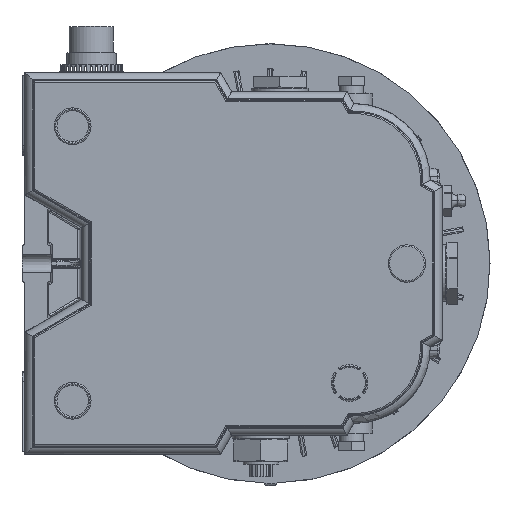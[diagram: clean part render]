
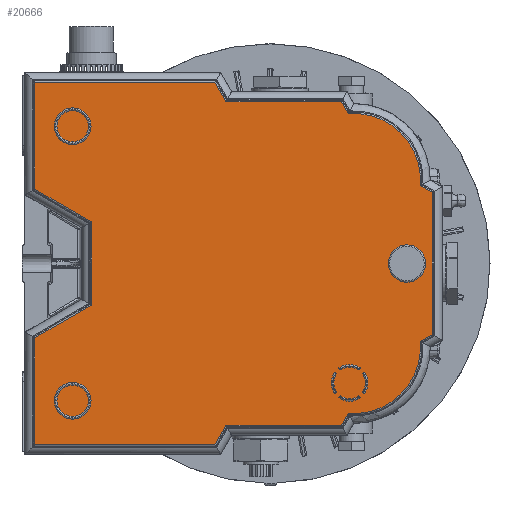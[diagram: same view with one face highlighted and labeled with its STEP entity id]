
A CAD part, front view. The second image highlights one B-rep face of the part: STEP entity #20666.
In plain terms, the highlighted planar face has unit normal (0, -1, 0).
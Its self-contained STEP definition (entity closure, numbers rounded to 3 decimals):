
#18843=DIRECTION('',(-0.5,0.,0.866));
#18844=VECTOR('',#18843,0.462);
#18845=CARTESIAN_POINT('',(-12.22,-5.6,3.392));
#18846=LINE('',#18845,#18844);
#18847=DIRECTION('',(-1.,0.,0.));
#18848=VECTOR('',#18847,2.415);
#18849=CARTESIAN_POINT('',(-9.805,-5.6,3.392));
#18850=LINE('',#18849,#18848);
#18851=DIRECTION('',(-0.5,0.,0.866));
#18852=VECTOR('',#18851,0.294);
#18853=CARTESIAN_POINT('',(-9.658,-5.6,3.137));
#18854=LINE('',#18853,#18852);
#18855=CARTESIAN_POINT('',(-9.541,-5.6,1.75));
#18856=DIRECTION('',(0.,-1.,0.));
#18857=DIRECTION('',(0.996,0.,-0.084));
#18858=AXIS2_PLACEMENT_3D('',#18855,#18856,#18857);
#18860=DIRECTION('',(-0.866,0.,0.5));
#18861=VECTOR('',#18860,0.294);
#18862=CARTESIAN_POINT('',(-7.899,-5.6,1.486));
#18863=LINE('',#18862,#18861);
#18864=DIRECTION('',(0.,0.,1.));
#18865=VECTOR('',#18864,2.971);
#18866=CARTESIAN_POINT('',(-7.899,-5.6,-1.486));
#18867=LINE('',#18866,#18865);
#18868=DIRECTION('',(0.866,0.,0.5));
#18869=VECTOR('',#18868,0.294);
#18870=CARTESIAN_POINT('',(-8.154,-5.6,-1.633));
#18871=LINE('',#18870,#18869);
#18872=CARTESIAN_POINT('',(-9.541,-5.6,-1.75));
#18873=DIRECTION('',(0.,-1.,0.));
#18874=DIRECTION('',(-0.084,0.,-0.996));
#18875=AXIS2_PLACEMENT_3D('',#18872,#18873,#18874);
#18877=DIRECTION('',(0.5,0.,0.866));
#18878=VECTOR('',#18877,0.294);
#18879=CARTESIAN_POINT('',(-9.805,-5.6,-3.392));
#18880=LINE('',#18879,#18878);
#18881=DIRECTION('',(1.,0.,0.));
#18882=VECTOR('',#18881,2.415);
#18883=CARTESIAN_POINT('',(-12.22,-5.6,-3.392));
#18884=LINE('',#18883,#18882);
#18885=DIRECTION('',(0.5,0.,0.866));
#18886=VECTOR('',#18885,0.462);
#18887=CARTESIAN_POINT('',(-12.451,-5.6,-3.792));
#18888=LINE('',#18887,#18886);
#18889=DIRECTION('',(1.,0.,0.));
#18890=VECTOR('',#18889,3.772);
#18891=CARTESIAN_POINT('',(-16.223,-5.6,-3.792));
#18892=LINE('',#18891,#18890);
#18893=DIRECTION('',(0.,0.,-1.));
#18894=VECTOR('',#18893,2.235);
#18895=CARTESIAN_POINT('',(-16.223,-5.6,-1.557));
#18896=LINE('',#18895,#18894);
#18897=DIRECTION('',(-0.866,0.,-0.5));
#18898=VECTOR('',#18897,1.374);
#18899=CARTESIAN_POINT('',(-15.033,-5.6,-0.87));
#18900=LINE('',#18899,#18898);
#18901=DIRECTION('',(0.,0.,-1.));
#18902=VECTOR('',#18901,1.74);
#18903=CARTESIAN_POINT('',(-15.033,-5.6,0.87));
#18904=LINE('',#18903,#18902);
#18905=DIRECTION('',(0.866,0.,-0.5));
#18906=VECTOR('',#18905,1.374);
#18907=CARTESIAN_POINT('',(-16.223,-5.6,1.557));
#18908=LINE('',#18907,#18906);
#18909=DIRECTION('',(0.,0.,-1.));
#18910=VECTOR('',#18909,2.235);
#18911=CARTESIAN_POINT('',(-16.223,-5.6,3.792));
#18912=LINE('',#18911,#18910);
#18913=DIRECTION('',(-1.,0.,0.));
#18914=VECTOR('',#18913,3.772);
#18915=CARTESIAN_POINT('',(-12.451,-5.6,3.792));
#18916=LINE('',#18915,#18914);
#19921=CARTESIAN_POINT('',(-12.22,-5.6,3.392));
#19922=CARTESIAN_POINT('',(-12.451,-5.6,3.792));
#19923=VERTEX_POINT('',#19921);
#19924=VERTEX_POINT('',#19922);
#19927=CARTESIAN_POINT('',(-16.223,-5.6,3.792));
#19928=VERTEX_POINT('',#19927);
#19931=CARTESIAN_POINT('',(-16.223,-5.6,1.557));
#19932=VERTEX_POINT('',#19931);
#19935=CARTESIAN_POINT('',(-15.033,-5.6,0.87));
#19936=VERTEX_POINT('',#19935);
#19939=CARTESIAN_POINT('',(-15.033,-5.6,-0.87));
#19940=VERTEX_POINT('',#19939);
#19943=CARTESIAN_POINT('',(-16.223,-5.6,-1.557));
#19944=VERTEX_POINT('',#19943);
#19947=CARTESIAN_POINT('',(-16.223,-5.6,-3.792));
#19948=VERTEX_POINT('',#19947);
#19951=CARTESIAN_POINT('',(-12.451,-5.6,-3.792));
#19952=VERTEX_POINT('',#19951);
#19955=CARTESIAN_POINT('',(-12.22,-5.6,-3.392));
#19956=VERTEX_POINT('',#19955);
#19959=CARTESIAN_POINT('',(-9.805,-5.6,-3.392));
#19960=VERTEX_POINT('',#19959);
#19963=CARTESIAN_POINT('',(-9.658,-5.6,-3.137));
#19964=VERTEX_POINT('',#19963);
#19967=CARTESIAN_POINT('',(-8.154,-5.6,-1.633));
#19968=VERTEX_POINT('',#19967);
#19971=CARTESIAN_POINT('',(-7.899,-5.6,-1.486));
#19972=VERTEX_POINT('',#19971);
#19975=CARTESIAN_POINT('',(-7.899,-5.6,1.486));
#19976=VERTEX_POINT('',#19975);
#19979=CARTESIAN_POINT('',(-8.154,-5.6,1.633));
#19980=VERTEX_POINT('',#19979);
#19983=CARTESIAN_POINT('',(-9.658,-5.6,3.137));
#19984=VERTEX_POINT('',#19983);
#19985=CARTESIAN_POINT('',(-9.805,-5.6,3.392));
#19986=VERTEX_POINT('',#19985);
#20623=CARTESIAN_POINT('',(-16.431,-5.6,0.));
#20624=DIRECTION('',(0.,-1.,0.));
#20625=DIRECTION('',(1.,0.,0.));
#20626=AXIS2_PLACEMENT_3D('',#20623,#20624,#20625);
#20627=PLANE('',#20626);
#20629=ORIENTED_EDGE('',*,*,#20628,.F.);
#20631=ORIENTED_EDGE('',*,*,#20630,.F.);
#20633=ORIENTED_EDGE('',*,*,#20632,.F.);
#20635=ORIENTED_EDGE('',*,*,#20634,.F.);
#20637=ORIENTED_EDGE('',*,*,#20636,.F.);
#20639=ORIENTED_EDGE('',*,*,#20638,.F.);
#20641=ORIENTED_EDGE('',*,*,#20640,.F.);
#20643=ORIENTED_EDGE('',*,*,#20642,.F.);
#20645=ORIENTED_EDGE('',*,*,#20644,.F.);
#20647=ORIENTED_EDGE('',*,*,#20646,.F.);
#20649=ORIENTED_EDGE('',*,*,#20648,.F.);
#20651=ORIENTED_EDGE('',*,*,#20650,.F.);
#20653=ORIENTED_EDGE('',*,*,#20652,.F.);
#20655=ORIENTED_EDGE('',*,*,#20654,.F.);
#20657=ORIENTED_EDGE('',*,*,#20656,.F.);
#20659=ORIENTED_EDGE('',*,*,#20658,.F.);
#20661=ORIENTED_EDGE('',*,*,#20660,.F.);
#20663=ORIENTED_EDGE('',*,*,#20662,.F.);
#20664=EDGE_LOOP('',(#20629,#20631,#20633,#20635,#20637,#20639,#20641,#20643,
#20645,#20647,#20649,#20651,#20653,#20655,#20657,#20659,#20661,#20663));
#20665=FACE_OUTER_BOUND('',#20664,.F.);
#20666=ADVANCED_FACE('',(#20665),#20627,.T.);
#18859=CIRCLE('',#18858,1.392);
#18876=CIRCLE('',#18875,1.392);
#20628=EDGE_CURVE('',#19923,#19924,#18846,.T.);
#20630=EDGE_CURVE('',#19986,#19923,#18850,.T.);
#20632=EDGE_CURVE('',#19984,#19986,#18854,.T.);
#20634=EDGE_CURVE('',#19980,#19984,#18859,.T.);
#20636=EDGE_CURVE('',#19976,#19980,#18863,.T.);
#20638=EDGE_CURVE('',#19972,#19976,#18867,.T.);
#20640=EDGE_CURVE('',#19968,#19972,#18871,.T.);
#20642=EDGE_CURVE('',#19964,#19968,#18876,.T.);
#20644=EDGE_CURVE('',#19960,#19964,#18880,.T.);
#20646=EDGE_CURVE('',#19956,#19960,#18884,.T.);
#20648=EDGE_CURVE('',#19952,#19956,#18888,.T.);
#20650=EDGE_CURVE('',#19948,#19952,#18892,.T.);
#20652=EDGE_CURVE('',#19944,#19948,#18896,.T.);
#20654=EDGE_CURVE('',#19940,#19944,#18900,.T.);
#20656=EDGE_CURVE('',#19936,#19940,#18904,.T.);
#20658=EDGE_CURVE('',#19932,#19936,#18908,.T.);
#20660=EDGE_CURVE('',#19928,#19932,#18912,.T.);
#20662=EDGE_CURVE('',#19924,#19928,#18916,.T.);
